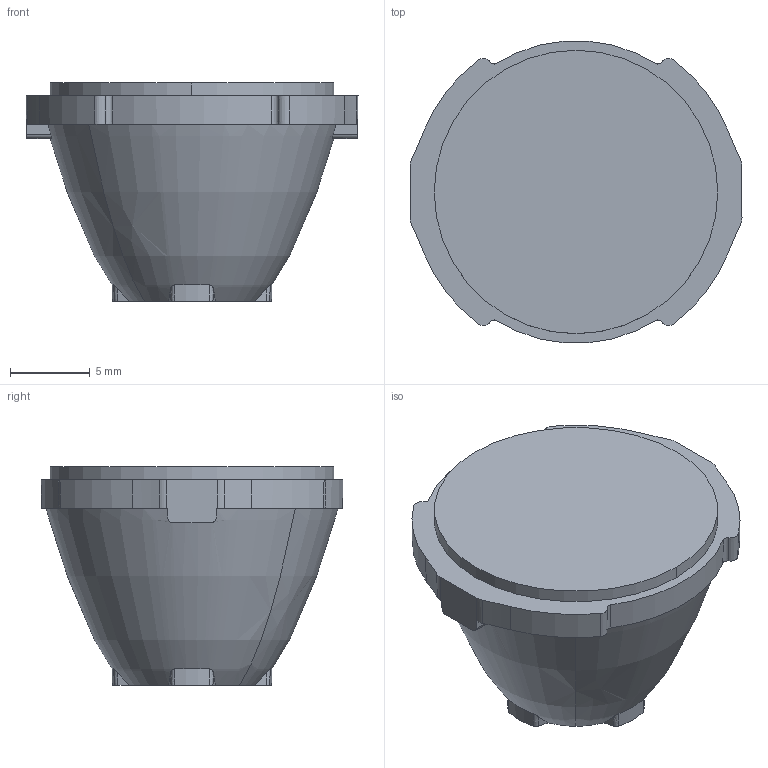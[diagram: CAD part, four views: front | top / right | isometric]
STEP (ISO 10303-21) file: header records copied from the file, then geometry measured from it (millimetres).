
FILE_DESCRIPTION(('Creo Elements/Direct Modeling STEP Export'),'2;1');
FILE_NAME('91754.stp','2026-09-14T11:44:30',(''),(''),'Creo Elements/Direct Modeling STEP processor for AP214 (Solid Model)','Creo Elements/Direct Modeling 20.9 29-May-2026 (C) Parametric Technology GmbH','');
FILE_SCHEMA(('AUTOMOTIVE_DESIGN { 1 0 10303 214 1 1 1 1 }'));
Length unit declared in the file: millimetre
Products named in the file (2): 91754
Assembly tree (1 placements, depth 2):
  91754
    91754
Bounding box: 20.85 x 18.94 x 13.7 mm (x, y, z)
Volume: 2489.7 mm3; surface area: 1246 mm2
Topology: 1 solids, 1 shells, 66 faces, 186 edges, 124 vertices
Faces by surface type: cone 22, plane 22, cylinder 12, bspline 8, revolution 2
Entity records: 2517 total; most frequent: CARTESIAN_POINT 820, ORIENTED_EDGE 372, DIRECTION 318, EDGE_CURVE 186, VERTEX_POINT 124, AXIS2_PLACEMENT_3D 122, VECTOR 72, LINE 72
